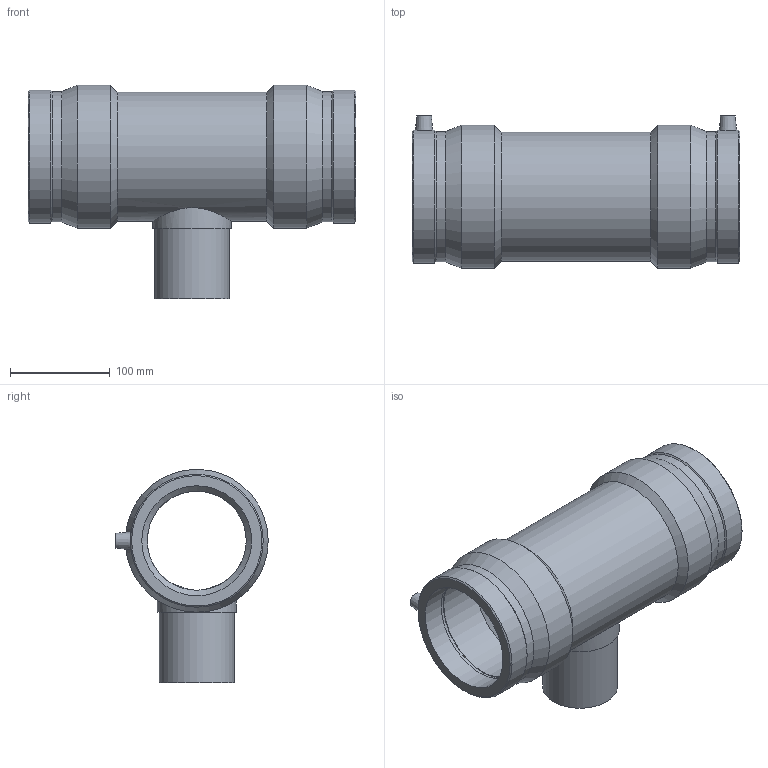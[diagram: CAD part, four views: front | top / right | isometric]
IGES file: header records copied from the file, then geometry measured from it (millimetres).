
Global section: file name: 491404110075.ipt; native system: Autodesk Inventor 2019; preprocessor: unknown; author: KIM; date: 20201206.224051; units: millimetre
Bounding box: 328 x 152.5 x 213.5 mm (x, y, z)
Volume: 1892550.7 mm3; surface area: 292980.9 mm2
Topology: 1 solids, 1 shells, 45 faces, 101 edges, 66 vertices
Faces by surface type: plane 12, revolution 12, cylinder 11, cone 10
Full cylindrical faces by diameter (mm): 4 x2, 75 x1, 78.75 x1, 128.7 x1, 130.33 x2, 132.99 x2, 143 x2
